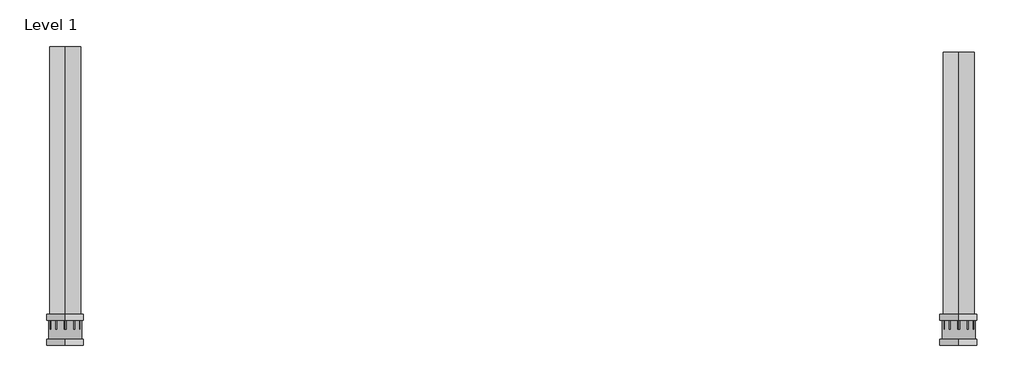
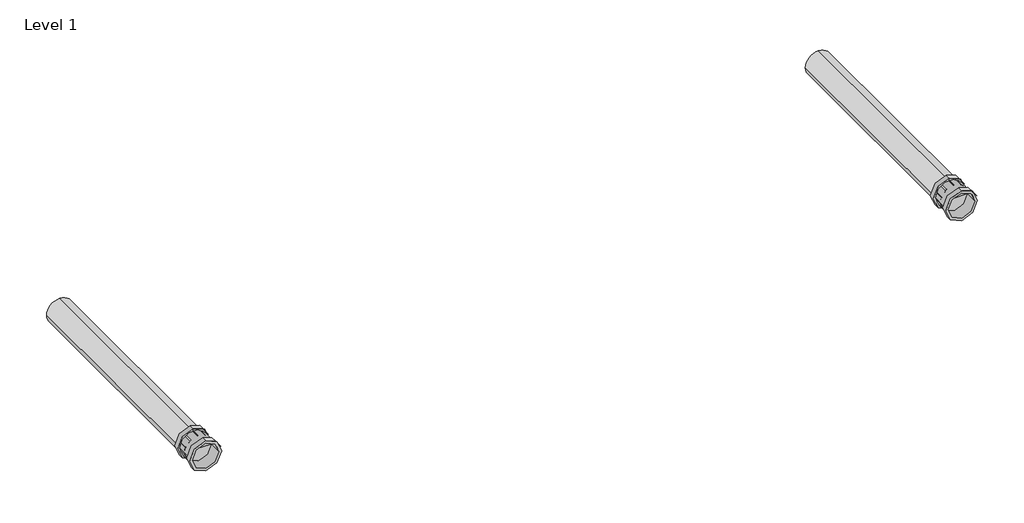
# One storey, incomplete: 2 pipe fittings, 2 pipe segments.
"""IFC4 building model written with IfcOpenShell, lengths in millimetres."""

import ifcopenshell
import ifcopenshell.guid

model = None  # the IFC model being written
_history = None  # IfcOwnerHistory: only IFC2X3 demands one
_inside = {}  # id of a spatial element -> (the spatial element, [elements in it])
_under = {}  # id of a project, library or spatial element -> (it, [spatial elements below it])
_declared = {}  # id of a project -> (the project, [libraries it declares])
_typed = {}  # id of a type object -> (the type object, [elements of that type])
_made_of = {}  # id of a material, layer set ... -> (it, [elements and type objects made of it])


def new_model(schema):
    """Start an empty IFC model of exactly this schema.

    Asked for "IFC4X3", IfcOpenShell would pick the latest addendum, in which some entities
    have other attributes; the version numbers below select the first issue.
    IFC2X3 requires an IfcOwnerHistory on every rooted entity: one is made here for all.
    """
    global model, _history
    if schema == "IFC4X3":
        model = ifcopenshell.file(schema_version=(4, 3, 0, 0))
    else:
        model = ifcopenshell.file(schema=schema)
    _inside.clear()
    _under.clear()
    _declared.clear()
    _typed.clear()
    _made_of.clear()
    _history = None
    if model.schema == "IFC2X3":
        org = make("IfcOrganization", Name="unknown")
        user = make(
            "IfcPersonAndOrganization",
            ThePerson=make("IfcPerson", FamilyName="unknown"),
            TheOrganization=org,
        )
        app = make(
            "IfcApplication",
            ApplicationDeveloper=org,
            Version="unknown",
            ApplicationFullName="unknown",
            ApplicationIdentifier="unknown",
        )
        _history = make(
            "IfcOwnerHistory",
            OwningUser=user,
            OwningApplication=app,
            ChangeAction="ADDED",
            CreationDate=0,
        )
    return model


def make(cls, **values):
    """One entity of the class cls with the attributes given. An attribute that is None is left unset."""
    return model.create_entity(
        cls, **{name: value for name, value in values.items() if value is not None}
    )


def rooted(cls, **values):
    """An entity with a GlobalId (a new one), such as an element, a storey or a relation."""
    return make(cls, GlobalId=ifcopenshell.guid.new(), OwnerHistory=_history, **values)


def si_unit(unit_type, name, prefix=None):
    """IfcSIUnit, for example si_unit("LENGTHUNIT", "METRE", prefix="MILLI")."""
    return make("IfcSIUnit", UnitType=unit_type, Prefix=prefix, Name=name)


def assignment(units):
    """IfcUnitAssignment: the units of a project."""
    return None if units is None else make("IfcUnitAssignment", Units=units)


def point(xyz):
    """IfcCartesianPoint."""
    return None if xyz is None else make("IfcCartesianPoint", Coordinates=xyz)


def direction(xyz):
    """IfcDirection."""
    return None if xyz is None else make("IfcDirection", DirectionRatios=xyz)


def frame(location, z_axis=None, x_axis=None):
    """IfcAxis2Placement3D, a coordinate frame: its origin and axes. An axis left out is left unset."""
    return make(
        "IfcAxis2Placement3D",
        Location=point(location),
        Axis=direction(z_axis),
        RefDirection=direction(x_axis),
    )


def frame_2d(location, x_axis=None):
    """IfcAxis2Placement2D, a coordinate frame in the plane: its origin and x axis."""
    return make(
        "IfcAxis2Placement2D", Location=point(location), RefDirection=direction(x_axis)
    )


def origin():
    """The frame at (0, 0, 0) with its axes left unset."""
    return frame((0.0, 0.0, 0.0))


def place(relative_to, where):
    """IfcLocalPlacement: puts the frame where relative to a parent placement (None: the world)."""
    return make(
        "IfcLocalPlacement", PlacementRelTo=relative_to, RelativePlacement=where
    )


def context(
    kind, dimensions, precision=None, world=None, true_north=None, identifier=None
):
    """IfcGeometricRepresentationContext, for example the 3D "Model" context."""
    return make(
        "IfcGeometricRepresentationContext",
        ContextIdentifier=identifier,
        ContextType=kind,
        CoordinateSpaceDimension=dimensions,
        Precision=precision,
        WorldCoordinateSystem=world,
        TrueNorth=true_north,
    )


def project(units=None, contexts=None):
    """IfcProject with its units and contexts."""
    return rooted(
        "IfcProject",
        Name="project",
        RepresentationContexts=contexts,
        UnitsInContext=assignment(units),
    )


def spatial(cls, under=None, at=None, **own):
    """A site, building, storey or space (cls), placed at a placement, below another one or the project."""
    s = rooted(cls, ObjectPlacement=at, **own)
    if under is not None:
        _under.setdefault(under.id(), (under, []))[1].append(s)
    return s


def polyline(points):
    """IfcPolyline through the points."""
    return make("IfcPolyline", Points=[point(p) for p in points])


def circle_curve(where, radius):
    """IfcCircle in the frame where."""
    return make("IfcCircle", Position=where, Radius=radius)


def trimmed(basis, trim1, trim2, sense, master):
    """IfcTrimmedCurve: the piece of a basis curve between two trims."""
    return make(
        "IfcTrimmedCurve",
        BasisCurve=basis,
        Trim1=trim1,
        Trim2=trim2,
        SenseAgreement=sense,
        MasterRepresentation=master,
    )


def segment(curve, same_sense, transition):
    """IfcCompositeCurveSegment."""
    return make(
        "IfcCompositeCurveSegment",
        Transition=transition,
        SameSense=same_sense,
        ParentCurve=curve,
    )


def composite_curve(segments, self_intersect=None):
    """IfcCompositeCurve: segments joined end to end."""
    return make("IfcCompositeCurve", Segments=segments, SelfIntersect=self_intersect)


def outline(outer, holes=None, kind="AREA"):
    """IfcArbitraryClosedProfileDef: a profile drawn as a closed curve; with holes, ...WithVoids."""
    if holes is None:
        return make("IfcArbitraryClosedProfileDef", ProfileType=kind, OuterCurve=outer)
    return make(
        "IfcArbitraryProfileDefWithVoids",
        ProfileType=kind,
        OuterCurve=outer,
        InnerCurves=holes,
    )


def extrude(swept, where, along, depth):
    """IfcExtrudedAreaSolid: the profile swept, set in the frame where, extruded along a direction by depth."""
    return make(
        "IfcExtrudedAreaSolid",
        SweptArea=swept,
        Position=where,
        ExtrudedDirection=direction(along),
        Depth=depth,
    )


def shape(context_of_items, identifier, shape_type, items):
    """IfcShapeRepresentation: the items that make up one representation, for example the "Body"."""
    return make(
        "IfcShapeRepresentation",
        ContextOfItems=context_of_items,
        RepresentationIdentifier=identifier,
        RepresentationType=shape_type,
        Items=items,
    )


def source(mapping_origin, context_of_items, identifier, shape_type, items):
    """IfcRepresentationMap: a shape defined once, which mapped items show again and again."""
    return make(
        "IfcRepresentationMap",
        MappingOrigin=mapping_origin,
        MappedRepresentation=shape(context_of_items, identifier, shape_type, items),
    )


def transform(
    local_origin,
    x_axis=None,
    y_axis=None,
    z_axis=None,
    scale=None,
    scale2=None,
    scale3=None,
    uniform=True,
):
    """IfcCartesianTransformationOperator3D, or its non-uniform kind. x_axis, y_axis, z_axis: its Axis1, 2, 3."""
    if uniform:
        return make(
            "IfcCartesianTransformationOperator3D",
            Axis1=direction(x_axis),
            Axis2=direction(y_axis),
            LocalOrigin=point(local_origin),
            Scale=scale,
            Axis3=direction(z_axis),
        )
    return make(
        "IfcCartesianTransformationOperator3DnonUniform",
        Axis1=direction(x_axis),
        Axis2=direction(y_axis),
        LocalOrigin=point(local_origin),
        Scale=scale,
        Axis3=direction(z_axis),
        Scale2=scale2,
        Scale3=scale3,
    )


def mapped(mapping_source, mapping_target):
    """IfcMappedItem: shows the shape of a source again, moved by a transform."""
    return make(
        "IfcMappedItem", MappingSource=mapping_source, MappingTarget=mapping_target
    )


def made_of(thing, what):
    """Note that an element or type object is made of a material, layer set ...; save() writes the relation."""
    if what is not None:
        _made_of.setdefault(what.id(), (what, []))[1].append(thing)
    return thing


def element(
    cls,
    number,
    at=None,
    inside=None,
    cuts=None,
    type_object=None,
    material=None,
    context=None,
    identifier="Body",
    shape_type=None,
    held_by="IfcProductDefinitionShape",
    body=None,
    shapes=None,
    **own,
):
    """One element of the class cls, such as IfcWall. Its Tag is "e" and its number.

    at: its placement. inside: the storey or other place that contains it. cuts: it is an
    opening in that element (IfcRelVoidsElement). A single representation is given by context,
    identifier, shape_type and body (its items); several are given by shapes. held_by: the class
    of the entity that holds the representations. save() writes the other relations.
    """
    e = rooted(cls, Tag="e%d" % number, ObjectPlacement=at, **own)
    if body is not None:
        shapes = [shape(context, identifier, shape_type, body)]
    if shapes is not None:
        e.Representation = make(held_by, Representations=shapes)
    if inside is not None:
        _inside.setdefault(inside.id(), (inside, []))[1].append(e)
    if cuts is not None:
        rooted(
            "IfcRelVoidsElement", RelatingBuildingElement=cuts, RelatedOpeningElement=e
        )
    if type_object is not None:
        _typed.setdefault(type_object.id(), (type_object, []))[1].append(e)
    return made_of(e, material)


def aggregate(whole, parts):
    """IfcRelAggregates: a whole, such as a stair, and the parts it consists of."""
    return rooted("IfcRelAggregates", RelatingObject=whole, RelatedObjects=parts)


def save(model, path):
    """Write the relations noted so far, then the file.

    IfcRelAggregates (storeys below a building ...), IfcRelContainedInSpatialStructure (elements
    in a storey), IfcRelDefinesByType, IfcRelAssociatesMaterial and IfcRelDeclares: one each for
    every whole, place, type object, material and project.
    """
    for whole, parts in _under.values():
        aggregate(whole, parts)
    for where, things in _inside.values():
        rooted(
            "IfcRelContainedInSpatialStructure",
            RelatedElements=things,
            RelatingStructure=where,
        )
    for kind, things in _typed.values():
        rooted("IfcRelDefinesByType", RelatedObjects=things, RelatingType=kind)
    for what, things in _made_of.values():
        rooted("IfcRelAssociatesMaterial", RelatedObjects=things, RelatingMaterial=what)
    for by, libraries in _declared.values():
        rooted("IfcRelDeclares", RelatingContext=by, RelatedDefinitions=libraries)
    model.write(path)


def plane_surface(at):
    """IfcPlane: the flat surface through the origin of the frame at, square to its z axis."""
    return make("IfcPlane", Position=at)


def cylinder_surface(at, radius):
    """IfcCylindricalSurface: all points at the distance radius from the z axis of the frame at."""
    return make("IfcCylindricalSurface", Position=at, Radius=radius)


def revolved_surface(curve, axis_point, axis_direction):
    """IfcSurfaceOfRevolution: the curve turned about the line through axis_point along axis_direction."""
    return make(
        "IfcSurfaceOfRevolution",
        SweptCurve=make("IfcArbitraryOpenProfileDef", ProfileType="CURVE", Curve=curve),
        AxisPosition=make("IfcAxis1Placement", Location=point(axis_point), Axis=direction(axis_direction)),
    )


def advanced_brep(points, edges, surfaces, faces):
    """IfcAdvancedBrep: a solid bounded by faces that lie on surfaces and meet in shared edges.

    An edge is (start, end): straight between two places in points (the first is 0);
    or (start, end, curve); or (start, end, curve, False) where it runs against its curve.
    A face is (place in surfaces, loops), or (place, loops, False) where it looks against
    its surface's normal. A loop lists edges by number (the first is 1), with a minus sign
    where the edge is run from its end to its start. The first loop is the outer one.
    """
    corners = [point(p) for p in points]
    vertices = [make("IfcVertexPoint", VertexGeometry=c) for c in corners]
    made = []
    for start, end, *more in edges:
        made.append(
            make(
                "IfcEdgeCurve",
                EdgeStart=vertices[start],
                EdgeEnd=vertices[end],
                EdgeGeometry=more[0] if more else make("IfcPolyline", Points=[corners[start], corners[end]]),
                SameSense=more[1] if len(more) > 1 else True,
            )
        )
    hull = []
    for where, loops, *sense in faces:
        bounds = []
        for j, loop in enumerate(loops):
            ring = [make("IfcOrientedEdge", EdgeElement=made[abs(k) - 1], Orientation=k > 0) for k in loop]
            bounds.append(
                make(
                    "IfcFaceOuterBound" if j == 0 else "IfcFaceBound",
                    Bound=make("IfcEdgeLoop", EdgeList=ring),
                    Orientation=True,
                )
            )
        hull.append(make("IfcAdvancedFace", Bounds=bounds, FaceSurface=surfaces[where], SameSense=sense[0] if sense else True))
    return make("IfcAdvancedBrep", Outer=make("IfcClosedShell", CfsFaces=hull))


def grey_730326c9(model_context):
    return source(origin(), model_context, "Body", "AdvancedBrep", [
        advanced_brep(
        [(-54.0, 0.0, 66.25), (-54.0, 0.0, -66.25), (-54.0, -55.0, 0.0), (-54.0, 55.0, 0.0), (0.0, -55.0, 0.0), (0.0, 55.0, 0.0), (0.0, 0.0, 0.0), (3.0, -55.0, 0.0), (3.0, 55.0, 0.0), (3.0, 0.0, 0.0), (57.0, -55.0, 0.0), (57.0, 55.0, 0.0), (57.0, 0.0, -66.25), (57.0, 0.0, 66.25), (-32.0, 57.9, 0.0), (35.0, 57.9, 0.0), (35.0, 0.0, -57.9), (35.0, -57.9, 0.0), (-32.0, -57.9, 0.0), (-32.0, 0.0, -57.9), (-32.0, 0.0, 57.9), (35.0, 0.0, 57.9), (-32.0, 0.0, -66.25), (-32.0, 0.0, 66.25), (35.0, 0.0, -66.25), (35.0, 0.0, 66.25)],
        [
            (0, 1, circle_curve(frame((-54.0, 0.0, 0.0), z_axis=(-1.0, 0.0, 0.0), x_axis=(0.0, 0.0, 1.0)), 66.25)),
            (1, 0, circle_curve(frame((-54.0, 0.0, 0.0), z_axis=(-1.0, 0.0, 0.0), x_axis=(0.0, 0.0, 1.0)), 66.25)),
            (2, 3, circle_curve(frame((-54.0, 0.0, 0.0), z_axis=(1.0, 0.0, 0.0), x_axis=(0.0, 1.0, 0.0)), 55.0)),
            (3, 2, circle_curve(frame((-54.0, 0.0, 0.0), z_axis=(1.0, 0.0, 0.0), x_axis=(0.0, 1.0, 0.0)), 55.0)),
            (2, 4),
            (4, 5, circle_curve(frame((0.0, 0.0, 0.0), z_axis=(1.0, 0.0, 0.0), x_axis=(0.0, 1.0, 0.0)), 55.0)),
            (5, 3),
            (5, 4, circle_curve(frame((0.0, 0.0, 0.0), z_axis=(1.0, 0.0, 0.0), x_axis=(0.0, 1.0, 0.0)), 55.0)),
            (4, 6),
            (6, 5),
            (7, 8, circle_curve(frame((3.0, 0.0, 0.0), z_axis=(1.0, 0.0, 0.0), x_axis=(0.0, 1.0, 0.0)), 55.0)),
            (8, 9),
            (9, 7),
            (8, 7, circle_curve(frame((3.0, 0.0, 0.0), z_axis=(1.0, 0.0, 0.0), x_axis=(0.0, 1.0, 0.0)), 55.0)),
            (7, 10),
            (10, 11, circle_curve(frame((57.0, 0.0, 0.0), z_axis=(1.0, 0.0, 0.0), x_axis=(0.0, 1.0, 0.0)), 55.0)),
            (11, 8),
            (11, 10, circle_curve(frame((57.0, 0.0, 0.0), z_axis=(1.0, 0.0, 0.0), x_axis=(0.0, 1.0, 0.0)), 55.0)),
            (12, 13, circle_curve(frame((57.0, 0.0, 0.0), z_axis=(1.0, 0.0, 0.0), x_axis=(0.0, 0.0, 1.0)), 66.25)),
            (13, 12, circle_curve(frame((57.0, 0.0, 0.0), z_axis=(1.0, 0.0, 0.0), x_axis=(0.0, 0.0, 1.0)), 66.25)),
            (14, 15),
            (15, 16, circle_curve(frame((35.0, 0.0, 0.0), z_axis=(-1.0, 0.0, 0.0), x_axis=(0.0, 1.0, 0.0)), 57.9)),
            (16, 17, circle_curve(frame((35.0, 0.0, 0.0), z_axis=(-1.0, 0.0, 0.0), x_axis=(0.0, 1.0, 0.0)), 57.9)),
            (17, 18),
            (18, 19, circle_curve(frame((-32.0, 0.0, 0.0), z_axis=(1.0, 0.0, 0.0), x_axis=(0.0, 1.0, 0.0)), 57.9)),
            (19, 14, circle_curve(frame((-32.0, 0.0, 0.0), z_axis=(1.0, 0.0, 0.0), x_axis=(0.0, 1.0, 0.0)), 57.9)),
            (14, 20, circle_curve(frame((-32.0, 0.0, 0.0), z_axis=(1.0, 0.0, 0.0), x_axis=(0.0, 1.0, 0.0)), 57.9)),
            (20, 18, circle_curve(frame((-32.0, 0.0, 0.0), z_axis=(1.0, 0.0, 0.0), x_axis=(0.0, 1.0, 0.0)), 57.9)),
            (17, 21, circle_curve(frame((35.0, 0.0, 0.0), z_axis=(-1.0, 0.0, 0.0), x_axis=(0.0, 1.0, 0.0)), 57.9)),
            (21, 15, circle_curve(frame((35.0, 0.0, 0.0), z_axis=(-1.0, 0.0, 0.0), x_axis=(0.0, 1.0, 0.0)), 57.9)),
            (22, 23, circle_curve(frame((-32.0, 0.0, 0.0), z_axis=(1.0, 0.0, 0.0), x_axis=(0.0, 0.0, 1.0)), 66.25)),
            (23, 20),
            (19, 22),
            (23, 22, circle_curve(frame((-32.0, 0.0, 0.0), z_axis=(1.0, 0.0, 0.0), x_axis=(0.0, 0.0, 1.0)), 66.25)),
            (22, 1),
            (0, 23),
            (12, 24),
            (24, 25, circle_curve(frame((35.0, 0.0, 0.0), z_axis=(1.0, 0.0, 0.0), x_axis=(0.0, 0.0, 1.0)), 66.25)),
            (25, 13),
            (25, 24, circle_curve(frame((35.0, 0.0, 0.0), z_axis=(1.0, 0.0, 0.0), x_axis=(0.0, 0.0, 1.0)), 66.25)),
            (24, 16),
            (21, 25),
        ],
        [
            plane_surface(frame((-54.0, 0.0, 0.0), z_axis=(-1.0, 0.0, 0.0), x_axis=(0.0, 1.0, 0.0))),
            revolved_surface(polyline([(-54.0, 55.0, 0.0), (0.0, 55.0, 0.0)]), (1985.25, 0.0, 0.0), (-1.0, 0.0, 0.0)),
            plane_surface(frame((0.0, 0.0, 0.0), z_axis=(-1.0, 0.0, 0.0), x_axis=(0.0, 1.0, 0.0))),
            plane_surface(frame((3.0, 0.0, 0.0), z_axis=(1.0, 0.0, 0.0), x_axis=(0.0, 1.0, 0.0))),
            revolved_surface(polyline([(3.0, 55.0, 0.0), (57.0, 55.0, 0.0)]), (1985.25, 0.0, 0.0), (-1.0, 0.0, 0.0)),
            plane_surface(frame((57.0, 0.0, 0.0), z_axis=(1.0, 0.0, 0.0), x_axis=(0.0, 1.0, 0.0))),
            cylinder_surface(frame((1985.25, 0.0, 0.0), z_axis=(-1.0, 0.0, 0.0), x_axis=(0.0, 1.0, 0.0)), 57.9),
            plane_surface(frame((-32.0, 0.0, 0.0), z_axis=(1.0, 0.0, 0.0), x_axis=(0.0, 0.0, 1.0))),
            cylinder_surface(frame((-314.0, 0.0, 0.0), z_axis=(-1.0, 0.0, 0.0), x_axis=(0.0, 0.0, 1.0)), 66.25),
            plane_surface(frame((35.0, 0.0, 0.0), z_axis=(-1.0, 0.0, 0.0), x_axis=(0.0, 0.0, 1.0))),
        ],
        [
            (0, [[1, 2], [3, 4]]),
            (1, [[-3, 5, 6, 7]]),
            (1, [[-4, -7, 8, -5]]),
            (2, [[-6, 9, 10]]),
            (2, [[-8, -10, -9]]),
            (3, [[11, 12, 13]]),
            (3, [[-12, 14, -13]]),
            (4, [[-11, 15, 16, 17]]),
            (4, [[-14, -17, 18, -15]]),
            (5, [[19, 20], [-16, -18]]),
            (6, [[21, 22, 23, 24, 25, 26]]),
            (6, [[-21, 27, 28, -24, 29, 30]]),
            (7, [[31, 32, -27, -26, 33]]),
            (7, [[-32, 34, -33, -25, -28]]),
            (8, [[-31, 35, -1, 36]]),
            (8, [[-34, -36, -2, -35]]),
            (8, [[-19, 37, 38, 39]]),
            (8, [[-20, -39, 40, -37]]),
            (9, [[-38, 41, -22, -30, 42]]),
            (9, [[-40, -42, -29, -23, -41]]),
        ],
    ),
    ])


model = new_model("IFC4")

# Units and contexts
model_context = context("Model", 3, world=origin())
ifc_project = project(units=[si_unit("LENGTHUNIT", "METRE", prefix="MILLI")], contexts=[model_context])

# Site, building, storey
site = spatial("IfcSite", under=ifc_project)
building = spatial("IfcBuilding", under=site)
storey = spatial("IfcBuildingStorey", under=building, Name="Level 1", Elevation=0.0)

# Pipe fittings
placement = place(None, origin())
grey_shape = grey_730326c9(model_context)
element("IfcPipeFitting", 1, ObjectType="Wavin_PipeFitting_OsmaSoilPvcSDoubleSocket : Grey", at=placement, inside=storey, context=model_context, shape_type="MappedRepresentation", body=[
    mapped(grey_shape, transform((2669.4812291, 3057.6275704, 150.0), x_axis=(0.0, -1.0, 0.0), y_axis=(1.0, 0.0, 0.0), z_axis=(0.0, 0.0, 1.0))),
])
element("IfcPipeFitting", 2, ObjectType="Wavin_PipeFitting_OsmaSoilPvcSDoubleSocket : Grey", at=placement, inside=storey, context=model_context, shape_type="MappedRepresentation", body=[
    mapped(grey_shape, transform((5829.4812291, 3057.6275704, 150.0), x_axis=(0.0, -1.0, 0.0), y_axis=(1.0, 0.0, 0.0), z_axis=(0.0, 0.0, 1.0))),
])

# Pipe segments
element("IfcPipeSegment", 3, ObjectType="Wavin_Pipe_OsmaSoilPvcURingSealPlainEnded", at=placement, inside=storey, context=model_context, shape_type="SweptSolid", body=[
    extrude(outline(composite_curve([segment(trimmed(circle_curve(frame_2d((150.0, 2669.4812291)), 55.0), [point((150.0, 2724.4812291))], [point((205.0, 2669.4812291))], False, "CARTESIAN"), True, "CONTINUOUS"), segment(trimmed(circle_curve(frame_2d((150.0, 2669.4812291)), 55.0), [point((205.0, 2669.4812291))], [point((150.0, 2614.4812291))], False, "CARTESIAN"), True, "CONTINUOUS"), segment(trimmed(circle_curve(frame_2d((150.0, 2669.4812291)), 55.0), [point((150.0, 2614.4812291))], [point((95.0, 2669.4812291))], False, "CARTESIAN"), True, "CONTINUOUS"), segment(trimmed(circle_curve(frame_2d((150.0, 2669.4812291)), 55.0), [point((95.0, 2669.4812291))], [point((150.0, 2724.4812291))], False, "CARTESIAN"), True, "CONTINUOUS")], self_intersect=False)), frame((0.0, 3057.6275704, 0.0), z_axis=(0.0, 1.0, 0.0), x_axis=(0.0, 0.0, 1.0)), (0.0, 0.0, 1.0), 1000.0),
])
element("IfcPipeSegment", 4, ObjectType="Wavin_Pipe_OsmaSoilPvcURingSealSocketEnded", at=placement, inside=storey, context=model_context, shape_type="SweptSolid", body=[
    extrude(outline(composite_curve([segment(trimmed(circle_curve(frame_2d((150.0, 5829.4812291)), 55.0), [point((150.0, 5884.4812291))], [point((205.0, 5829.4812291))], False, "CARTESIAN"), True, "CONTINUOUS"), segment(trimmed(circle_curve(frame_2d((150.0, 5829.4812291)), 55.0), [point((205.0, 5829.4812291))], [point((150.0, 5774.4812291))], False, "CARTESIAN"), True, "CONTINUOUS"), segment(trimmed(circle_curve(frame_2d((150.0, 5829.4812291)), 55.0), [point((150.0, 5774.4812291))], [point((95.0, 5829.4812291))], False, "CARTESIAN"), True, "CONTINUOUS"), segment(trimmed(circle_curve(frame_2d((150.0, 5829.4812291)), 55.0), [point((95.0, 5829.4812291))], [point((150.0, 5884.4812291))], False, "CARTESIAN"), True, "CONTINUOUS")], self_intersect=False)), frame((0.0, 3057.6275704, 0.0), z_axis=(0.0, 1.0, 0.0), x_axis=(0.0, 0.0, 1.0)), (0.0, 0.0, 1.0), 979.5764189),
])

save(model, "model.ifc")
